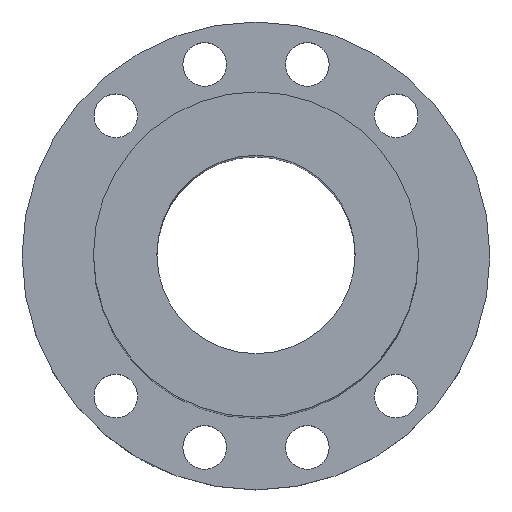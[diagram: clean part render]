
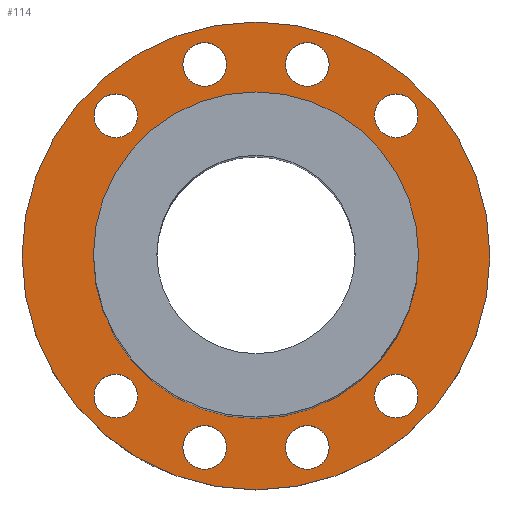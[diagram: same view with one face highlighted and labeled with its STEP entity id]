
A CAD part, top view. The second image highlights one B-rep face of the part: STEP entity #114.
In plain terms, the highlighted planar face has unit normal (0, 0, 1).
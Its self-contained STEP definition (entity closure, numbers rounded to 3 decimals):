
#99=PLANE('',#401);
#114=ADVANCED_FACE('',(#169,#170,#171,#172,#173,#174,#175,#176,#177,#178),
#99,.T.);
#169=FACE_BOUND('',#221,.T.);
#170=FACE_BOUND('',#222,.T.);
#171=FACE_BOUND('',#223,.T.);
#172=FACE_BOUND('',#224,.T.);
#173=FACE_BOUND('',#225,.T.);
#174=FACE_BOUND('',#226,.T.);
#175=FACE_BOUND('',#227,.T.);
#176=FACE_BOUND('',#228,.T.);
#177=FACE_BOUND('',#229,.T.);
#178=FACE_BOUND('',#230,.T.);
#221=EDGE_LOOP('',(#273));
#222=EDGE_LOOP('',(#274));
#223=EDGE_LOOP('',(#275));
#224=EDGE_LOOP('',(#276));
#225=EDGE_LOOP('',(#277));
#226=EDGE_LOOP('',(#278));
#227=EDGE_LOOP('',(#279));
#228=EDGE_LOOP('',(#280));
#229=EDGE_LOOP('',(#281));
#230=EDGE_LOOP('',(#282));
#273=ORIENTED_EDGE('',*,*,#316,.T.);
#274=ORIENTED_EDGE('',*,*,#337,.T.);
#275=ORIENTED_EDGE('',*,*,#336,.T.);
#276=ORIENTED_EDGE('',*,*,#335,.F.);
#277=ORIENTED_EDGE('',*,*,#334,.F.);
#278=ORIENTED_EDGE('',*,*,#318,.T.);
#279=ORIENTED_EDGE('',*,*,#333,.F.);
#280=ORIENTED_EDGE('',*,*,#332,.F.);
#281=ORIENTED_EDGE('',*,*,#331,.T.);
#282=ORIENTED_EDGE('',*,*,#338,.T.);
#290=VERTEX_POINT('',#495);
#292=VERTEX_POINT('',#557);
#305=VERTEX_POINT('',#644);
#306=VERTEX_POINT('',#647);
#307=VERTEX_POINT('',#650);
#308=VERTEX_POINT('',#653);
#309=VERTEX_POINT('',#656);
#310=VERTEX_POINT('',#659);
#311=VERTEX_POINT('',#662);
#312=VERTEX_POINT('',#665);
#316=EDGE_CURVE('',#290,#290,#342,.T.);
#318=EDGE_CURVE('',#292,#292,#343,.T.);
#331=EDGE_CURVE('',#305,#305,#355,.T.);
#332=EDGE_CURVE('',#306,#306,#356,.T.);
#333=EDGE_CURVE('',#307,#307,#357,.T.);
#334=EDGE_CURVE('',#308,#308,#358,.T.);
#335=EDGE_CURVE('',#309,#309,#359,.T.);
#336=EDGE_CURVE('',#310,#310,#360,.T.);
#337=EDGE_CURVE('',#311,#311,#361,.T.);
#338=EDGE_CURVE('',#312,#312,#362,.T.);
#342=CIRCLE('',#367,59.);
#343=CIRCLE('',#369,41.);
#355=CIRCLE('',#385,5.5);
#356=CIRCLE('',#387,5.5);
#357=CIRCLE('',#389,5.5);
#358=CIRCLE('',#391,5.5);
#359=CIRCLE('',#393,5.5);
#360=CIRCLE('',#395,5.5);
#361=CIRCLE('',#397,5.5);
#362=CIRCLE('',#399,5.5);
#367=AXIS2_PLACEMENT_3D('',#494,#411,#412);
#369=AXIS2_PLACEMENT_3D('',#556,#415,#416);
#385=AXIS2_PLACEMENT_3D('',#643,#447,#448);
#387=AXIS2_PLACEMENT_3D('',#646,#451,#452);
#389=AXIS2_PLACEMENT_3D('',#649,#455,#456);
#391=AXIS2_PLACEMENT_3D('',#652,#459,#460);
#393=AXIS2_PLACEMENT_3D('',#655,#463,#464);
#395=AXIS2_PLACEMENT_3D('',#658,#467,#468);
#397=AXIS2_PLACEMENT_3D('',#661,#471,#472);
#399=AXIS2_PLACEMENT_3D('',#664,#475,#476);
#401=AXIS2_PLACEMENT_3D('',#667,#479,#480);
#411=DIRECTION('',(0.,0.,1.));
#412=DIRECTION('',(1.,0.,0.));
#415=DIRECTION('',(0.,0.,-1.));
#416=DIRECTION('',(1.,0.,0.));
#447=DIRECTION('',(0.,0.,-1.));
#448=DIRECTION('',(1.,0.,0.));
#451=DIRECTION('',(0.,0.,1.));
#452=DIRECTION('',(1.,0.,0.));
#455=DIRECTION('',(0.,0.,1.));
#456=DIRECTION('',(-1.,0.,0.));
#459=DIRECTION('',(0.,0.,1.));
#460=DIRECTION('',(-1.,0.,0.));
#463=DIRECTION('',(0.,0.,1.));
#464=DIRECTION('',(1.,0.,0.));
#467=DIRECTION('',(0.,0.,-1.));
#468=DIRECTION('',(1.,0.,0.));
#471=DIRECTION('',(0.,0.,-1.));
#472=DIRECTION('',(-1.,0.,0.));
#475=DIRECTION('',(0.,0.,-1.));
#476=DIRECTION('',(-1.,0.,0.));
#479=DIRECTION('',(0.,0.,1.));
#480=DIRECTION('',(1.,0.,0.));
#494=CARTESIAN_POINT('',(0.,0.,16.));
#495=CARTESIAN_POINT('',(59.,0.,16.));
#556=CARTESIAN_POINT('',(0.,0.,16.));
#557=CARTESIAN_POINT('',(41.,0.,16.));
#643=CARTESIAN_POINT('',(-12.941,-48.296,16.));
#644=CARTESIAN_POINT('',(-7.441,-48.296,16.));
#646=CARTESIAN_POINT('',(-35.355,35.355,16.));
#647=CARTESIAN_POINT('',(-29.855,35.355,16.));
#649=CARTESIAN_POINT('',(12.941,-48.296,16.));
#650=CARTESIAN_POINT('',(7.441,-48.296,16.));
#652=CARTESIAN_POINT('',(35.355,-35.355,16.));
#653=CARTESIAN_POINT('',(29.855,-35.355,16.));
#655=CARTESIAN_POINT('',(-12.941,48.296,16.));
#656=CARTESIAN_POINT('',(-7.441,48.296,16.));
#658=CARTESIAN_POINT('',(-35.355,-35.355,16.));
#659=CARTESIAN_POINT('',(-29.855,-35.355,16.));
#661=CARTESIAN_POINT('',(12.941,48.296,16.));
#662=CARTESIAN_POINT('',(7.441,48.296,16.));
#664=CARTESIAN_POINT('',(35.355,35.355,16.));
#665=CARTESIAN_POINT('',(29.855,35.355,16.));
#667=CARTESIAN_POINT('',(6.47,24.148,16.));
